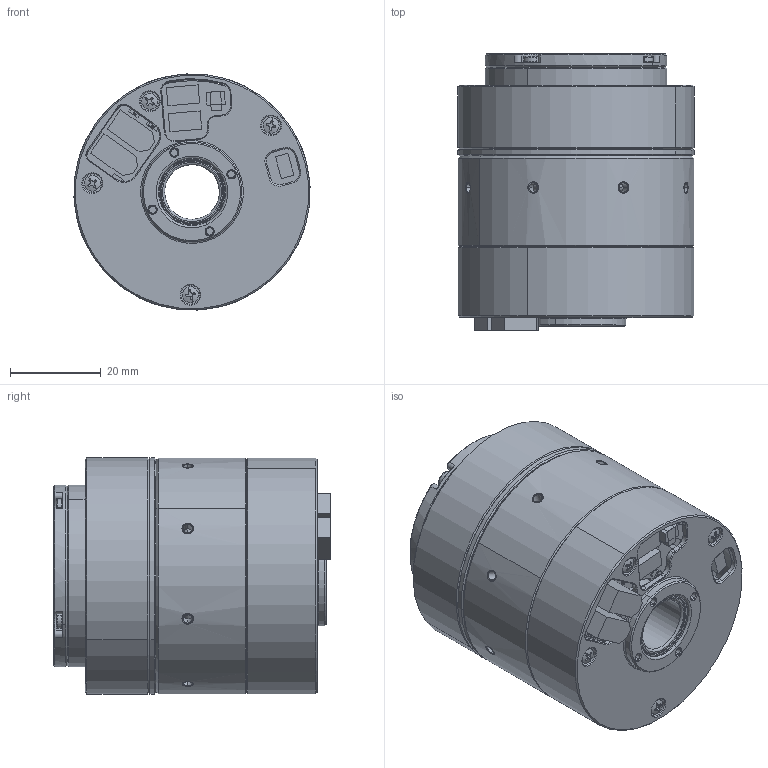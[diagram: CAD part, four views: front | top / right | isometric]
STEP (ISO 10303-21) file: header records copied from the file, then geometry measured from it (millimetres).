
FILE_DESCRIPTION (( 'STEP AP203' ), '1' );
FILE_NAME ('CRA-RI40-52-PRO-2-xxx-B0.step', '2024-07-31T05:41:26', ( '' ), ( '' ), 'SwSTEP 2.0', 'SolidWorks 2021', '' );
FILE_SCHEMA (( 'CONFIG_CONTROL_DESIGN' ));
Length unit declared in the file: millimetre
Products named in the file (1): CRA-RI40-52-PRO-2-xxx-B0
Bounding box: 51.95 x 60.9 x 51.95 mm (x, y, z)
Surface area: 29696.8 mm2 (no closed solid volume)
Topology: 0 solids, 88 shells, 915 faces, 3482 edges, 2644 vertices
Faces by surface type: plane 365, cylinder 313, cone 201, torus 24, sphere 8, bspline 4
Entity records: 43021 total; most frequent: CARTESIAN_POINT 14272, DIRECTION 5923, ORIENTED_EDGE 5257, EDGE_CURVE 3481, VERTEX_POINT 2644, AXIS2_PLACEMENT_3D 2123, VECTOR 1677, LINE 1677
